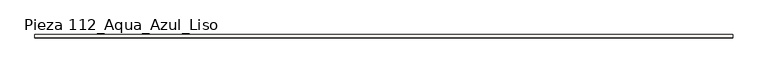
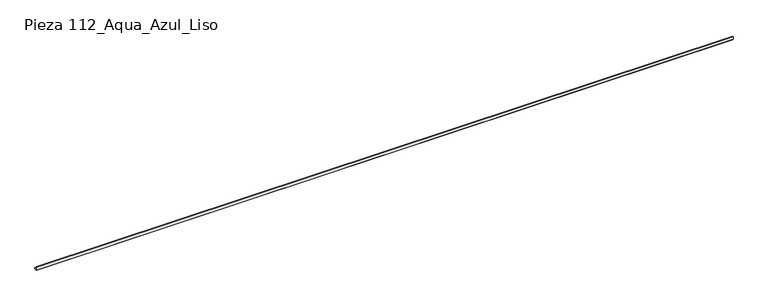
"""IFC4 building model written with IfcOpenShell, lengths in millimetres: slab geometry, ROSA GRES_112 : Pieza 112_Aqua_Azul_Liso."""

import ifcopenshell
import ifcopenshell.guid

model = None  # the IFC model being written
_history = None  # IfcOwnerHistory: only IFC2X3 demands one
_inside = {}  # id of a spatial element -> (the spatial element, [elements in it])
_under = {}  # id of a project, library or spatial element -> (it, [spatial elements below it])
_declared = {}  # id of a project -> (the project, [libraries it declares])
_typed = {}  # id of a type object -> (the type object, [elements of that type])
_made_of = {}  # id of a material, layer set ... -> (it, [elements and type objects made of it])


def new_model(schema):
    """Start an empty IFC model of exactly this schema.

    Asked for "IFC4X3", IfcOpenShell would pick the latest addendum, in which some entities
    have other attributes; the version numbers below select the first issue.
    IFC2X3 requires an IfcOwnerHistory on every rooted entity: one is made here for all.
    """
    global model, _history
    if schema == "IFC4X3":
        model = ifcopenshell.file(schema_version=(4, 3, 0, 0))
    else:
        model = ifcopenshell.file(schema=schema)
    _inside.clear()
    _under.clear()
    _declared.clear()
    _typed.clear()
    _made_of.clear()
    _history = None
    if model.schema == "IFC2X3":
        org = make("IfcOrganization", Name="unknown")
        user = make(
            "IfcPersonAndOrganization",
            ThePerson=make("IfcPerson", FamilyName="unknown"),
            TheOrganization=org,
        )
        app = make(
            "IfcApplication",
            ApplicationDeveloper=org,
            Version="unknown",
            ApplicationFullName="unknown",
            ApplicationIdentifier="unknown",
        )
        _history = make(
            "IfcOwnerHistory",
            OwningUser=user,
            OwningApplication=app,
            ChangeAction="ADDED",
            CreationDate=0,
        )
    return model


def make(cls, **values):
    """One entity of the class cls with the attributes given. An attribute that is None is left unset."""
    return model.create_entity(
        cls, **{name: value for name, value in values.items() if value is not None}
    )


def rooted(cls, **values):
    """An entity with a GlobalId (a new one), such as an element, a storey or a relation."""
    return make(cls, GlobalId=ifcopenshell.guid.new(), OwnerHistory=_history, **values)


def si_unit(unit_type, name, prefix=None):
    """IfcSIUnit, for example si_unit("LENGTHUNIT", "METRE", prefix="MILLI")."""
    return make("IfcSIUnit", UnitType=unit_type, Prefix=prefix, Name=name)


def assignment(units):
    """IfcUnitAssignment: the units of a project."""
    return None if units is None else make("IfcUnitAssignment", Units=units)


def point(xyz):
    """IfcCartesianPoint."""
    return None if xyz is None else make("IfcCartesianPoint", Coordinates=xyz)


def direction(xyz):
    """IfcDirection."""
    return None if xyz is None else make("IfcDirection", DirectionRatios=xyz)


def frame(location, z_axis=None, x_axis=None):
    """IfcAxis2Placement3D, a coordinate frame: its origin and axes. An axis left out is left unset."""
    return make(
        "IfcAxis2Placement3D",
        Location=point(location),
        Axis=direction(z_axis),
        RefDirection=direction(x_axis),
    )


def frame_2d(location, x_axis=None):
    """IfcAxis2Placement2D, a coordinate frame in the plane: its origin and x axis."""
    return make(
        "IfcAxis2Placement2D", Location=point(location), RefDirection=direction(x_axis)
    )


def origin():
    """The frame at (0, 0, 0) with its axes left unset."""
    return frame((0.0, 0.0, 0.0))


def place(relative_to, where):
    """IfcLocalPlacement: puts the frame where relative to a parent placement (None: the world)."""
    return make(
        "IfcLocalPlacement", PlacementRelTo=relative_to, RelativePlacement=where
    )


def context(
    kind, dimensions, precision=None, world=None, true_north=None, identifier=None
):
    """IfcGeometricRepresentationContext, for example the 3D "Model" context."""
    return make(
        "IfcGeometricRepresentationContext",
        ContextIdentifier=identifier,
        ContextType=kind,
        CoordinateSpaceDimension=dimensions,
        Precision=precision,
        WorldCoordinateSystem=world,
        TrueNorth=true_north,
    )


def project(units=None, contexts=None):
    """IfcProject with its units and contexts."""
    return rooted(
        "IfcProject",
        Name="project",
        RepresentationContexts=contexts,
        UnitsInContext=assignment(units),
    )


def spatial(cls, under=None, at=None, **own):
    """A site, building, storey or space (cls), placed at a placement, below another one or the project."""
    s = rooted(cls, ObjectPlacement=at, **own)
    if under is not None:
        _under.setdefault(under.id(), (under, []))[1].append(s)
    return s


def polyline(points):
    """IfcPolyline through the points."""
    return make("IfcPolyline", Points=[point(p) for p in points])


def circle_curve(where, radius):
    """IfcCircle in the frame where."""
    return make("IfcCircle", Position=where, Radius=radius)


def trimmed(basis, trim1, trim2, sense, master):
    """IfcTrimmedCurve: the piece of a basis curve between two trims."""
    return make(
        "IfcTrimmedCurve",
        BasisCurve=basis,
        Trim1=trim1,
        Trim2=trim2,
        SenseAgreement=sense,
        MasterRepresentation=master,
    )


def segment(curve, same_sense, transition):
    """IfcCompositeCurveSegment."""
    return make(
        "IfcCompositeCurveSegment",
        Transition=transition,
        SameSense=same_sense,
        ParentCurve=curve,
    )


def composite_curve(segments, self_intersect=None):
    """IfcCompositeCurve: segments joined end to end."""
    return make("IfcCompositeCurve", Segments=segments, SelfIntersect=self_intersect)


def outline(outer, holes=None, kind="AREA"):
    """IfcArbitraryClosedProfileDef: a profile drawn as a closed curve; with holes, ...WithVoids."""
    if holes is None:
        return make("IfcArbitraryClosedProfileDef", ProfileType=kind, OuterCurve=outer)
    return make(
        "IfcArbitraryProfileDefWithVoids",
        ProfileType=kind,
        OuterCurve=outer,
        InnerCurves=holes,
    )


def extrude(swept, where, along, depth):
    """IfcExtrudedAreaSolid: the profile swept, set in the frame where, extruded along a direction by depth."""
    return make(
        "IfcExtrudedAreaSolid",
        SweptArea=swept,
        Position=where,
        ExtrudedDirection=direction(along),
        Depth=depth,
    )


def shape(context_of_items, identifier, shape_type, items):
    """IfcShapeRepresentation: the items that make up one representation, for example the "Body"."""
    return make(
        "IfcShapeRepresentation",
        ContextOfItems=context_of_items,
        RepresentationIdentifier=identifier,
        RepresentationType=shape_type,
        Items=items,
    )


def source(mapping_origin, context_of_items, identifier, shape_type, items):
    """IfcRepresentationMap: a shape defined once, which mapped items show again and again."""
    return make(
        "IfcRepresentationMap",
        MappingOrigin=mapping_origin,
        MappedRepresentation=shape(context_of_items, identifier, shape_type, items),
    )


def transform(
    local_origin,
    x_axis=None,
    y_axis=None,
    z_axis=None,
    scale=None,
    scale2=None,
    scale3=None,
    uniform=True,
):
    """IfcCartesianTransformationOperator3D, or its non-uniform kind. x_axis, y_axis, z_axis: its Axis1, 2, 3."""
    if uniform:
        return make(
            "IfcCartesianTransformationOperator3D",
            Axis1=direction(x_axis),
            Axis2=direction(y_axis),
            LocalOrigin=point(local_origin),
            Scale=scale,
            Axis3=direction(z_axis),
        )
    return make(
        "IfcCartesianTransformationOperator3DnonUniform",
        Axis1=direction(x_axis),
        Axis2=direction(y_axis),
        LocalOrigin=point(local_origin),
        Scale=scale,
        Axis3=direction(z_axis),
        Scale2=scale2,
        Scale3=scale3,
    )


def mapped(mapping_source, mapping_target):
    """IfcMappedItem: shows the shape of a source again, moved by a transform."""
    return make(
        "IfcMappedItem", MappingSource=mapping_source, MappingTarget=mapping_target
    )


def made_of(thing, what):
    """Note that an element or type object is made of a material, layer set ...; save() writes the relation."""
    if what is not None:
        _made_of.setdefault(what.id(), (what, []))[1].append(thing)
    return thing


def element(
    cls,
    number,
    at=None,
    inside=None,
    cuts=None,
    type_object=None,
    material=None,
    context=None,
    identifier="Body",
    shape_type=None,
    held_by="IfcProductDefinitionShape",
    body=None,
    shapes=None,
    **own,
):
    """One element of the class cls, such as IfcWall. Its Tag is "e" and its number.

    at: its placement. inside: the storey or other place that contains it. cuts: it is an
    opening in that element (IfcRelVoidsElement). A single representation is given by context,
    identifier, shape_type and body (its items); several are given by shapes. held_by: the class
    of the entity that holds the representations. save() writes the other relations.
    """
    e = rooted(cls, Tag="e%d" % number, ObjectPlacement=at, **own)
    if body is not None:
        shapes = [shape(context, identifier, shape_type, body)]
    if shapes is not None:
        e.Representation = make(held_by, Representations=shapes)
    if inside is not None:
        _inside.setdefault(inside.id(), (inside, []))[1].append(e)
    if cuts is not None:
        rooted(
            "IfcRelVoidsElement", RelatingBuildingElement=cuts, RelatedOpeningElement=e
        )
    if type_object is not None:
        _typed.setdefault(type_object.id(), (type_object, []))[1].append(e)
    return made_of(e, material)


def aggregate(whole, parts):
    """IfcRelAggregates: a whole, such as a stair, and the parts it consists of."""
    return rooted("IfcRelAggregates", RelatingObject=whole, RelatedObjects=parts)


def save(model, path):
    """Write the relations noted so far, then the file.

    IfcRelAggregates (storeys below a building ...), IfcRelContainedInSpatialStructure (elements
    in a storey), IfcRelDefinesByType, IfcRelAssociatesMaterial and IfcRelDeclares: one each for
    every whole, place, type object, material and project.
    """
    for whole, parts in _under.values():
        aggregate(whole, parts)
    for where, things in _inside.values():
        rooted(
            "IfcRelContainedInSpatialStructure",
            RelatedElements=things,
            RelatingStructure=where,
        )
    for kind, things in _typed.values():
        rooted("IfcRelDefinesByType", RelatedObjects=things, RelatingType=kind)
    for what, things in _made_of.values():
        rooted("IfcRelAssociatesMaterial", RelatedObjects=things, RelatingMaterial=what)
    for by, libraries in _declared.values():
        rooted("IfcRelDeclares", RelatingContext=by, RelatedDefinitions=libraries)
    model.write(path)


def pieza_112_aqua_azul_liso_95a1ca5b(model_context):
    return source(origin(), model_context, "Body", "SweptSolid", [
        extrude(outline(composite_curve([segment(polyline([(0.0, 8.7114978), (0.0, 40.0), (9.9734114, 40.0)]), True, "CONTINUOUS"), segment(trimmed(circle_curve(frame_2d((39.9955547, 39.9955547)), 30.0221435), [point((9.9734114, 40.0))], [point((40.0, 9.9734114))], True, "CARTESIAN"), True, "CONTINUOUS"), segment(polyline([(40.0, 9.9734114), (40.0, 0.0), (8.7114978, 0.0), (0.0, 8.7114978)]), True, "CONTINUOUS")], self_intersect=False)), frame((0.0, 0.0, 0.0), z_axis=(1.0, 0.0, 0.0), x_axis=(0.0, 1.0, 0.0)), (0.0, 0.0, 1.0), 8000.0),
    ])


if __name__ == "__main__":
    model = new_model("IFC4")
    model_context = context("Model", 3, world=origin())
    ifc_project = project(units=[si_unit("LENGTHUNIT", "METRE", prefix="MILLI")], contexts=[model_context])
    site = spatial("IfcSite", under=ifc_project)
    building = spatial("IfcBuilding", under=site)
    placement = place(None, origin())
    pieza_112_aqua_azul_liso_shape = pieza_112_aqua_azul_liso_95a1ca5b(model_context)
    element("IfcSlab", 1, ObjectType="ROSA GRES_112 : Pieza 112_Aqua_Azul_Liso", at=placement, inside=building, context=model_context, shape_type="MappedRepresentation", body=[
        mapped(pieza_112_aqua_azul_liso_shape, transform((0.0, 0.0, 0.0), x_axis=(1.0, 0.0, 0.0), y_axis=(0.0, 1.0, 0.0), z_axis=(0.0, 0.0, 1.0))),
    ])
    save(model, "model.ifc")
